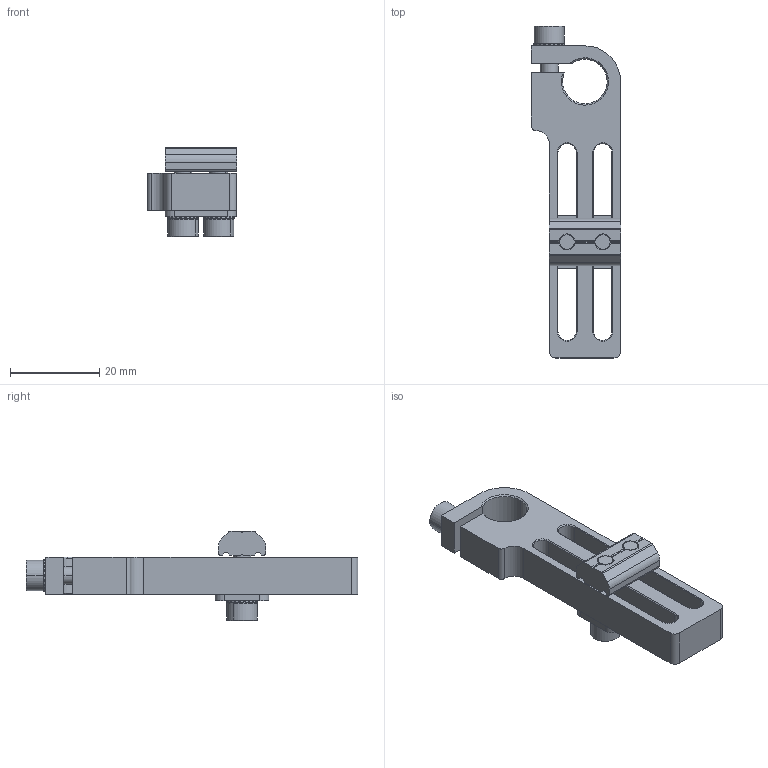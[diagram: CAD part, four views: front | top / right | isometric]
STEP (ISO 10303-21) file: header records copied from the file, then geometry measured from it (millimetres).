
FILE_DESCRIPTION (( 'STEP AP214' ), '1' );
FILE_NAME ('SMBE2-1040T.STEP', '2022-12-14T03:19:59', ( '' ), ( '' ), 'SwSTEP 2.0', 'SolidWorks 2018', '' );
FILE_SCHEMA (( 'AUTOMOTIVE_DESIGN' ));
Length unit declared in the file: millimetre
Products named in the file (1): SMBE2-1040T
Bounding box: 20 x 74.45 x 20 mm (x, y, z)
Volume: 7836.6 mm3; surface area: 7378.1 mm2
Topology: 9 solids, 9 shells, 672 faces, 1932 edges, 1273 vertices
Faces by surface type: plane 566, cylinder 70, cone 36
Entity records: 29766 total; most frequent: CARTESIAN_POINT 4080, DIRECTION 3886, ORIENTED_EDGE 3860, EDGE_CURVE 1930, AXIS2_PLACEMENT_3D 1319, VERTEX_POINT 1273, VECTOR 1248, LINE 1248
